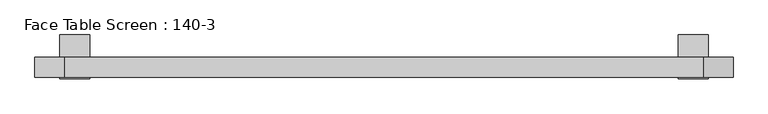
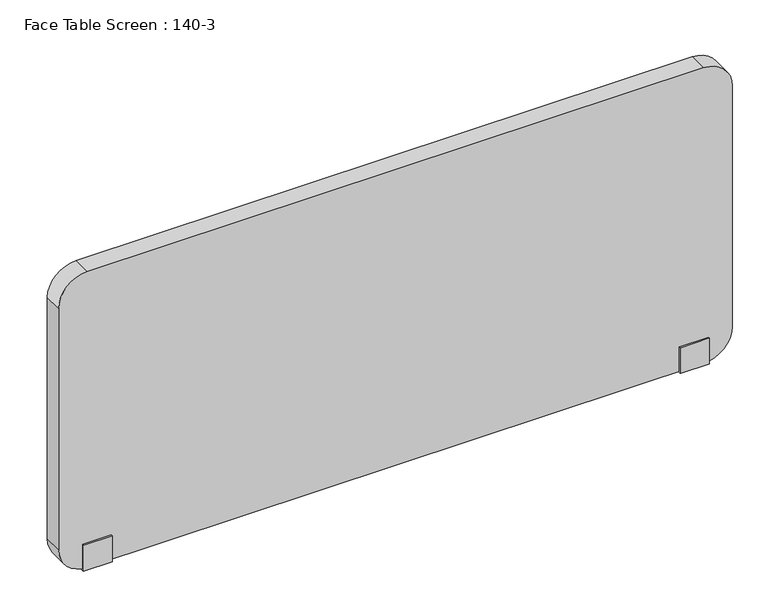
"""IFC4 building model written with IfcOpenShell, lengths in millimetres: furniture geometry, Face Table Screen : 140-3."""

import ifcopenshell
import ifcopenshell.guid

model = None  # the IFC model being written
_history = None  # IfcOwnerHistory: only IFC2X3 demands one
_inside = {}  # id of a spatial element -> (the spatial element, [elements in it])
_under = {}  # id of a project, library or spatial element -> (it, [spatial elements below it])
_declared = {}  # id of a project -> (the project, [libraries it declares])
_typed = {}  # id of a type object -> (the type object, [elements of that type])
_made_of = {}  # id of a material, layer set ... -> (it, [elements and type objects made of it])


def new_model(schema):
    """Start an empty IFC model of exactly this schema.

    Asked for "IFC4X3", IfcOpenShell would pick the latest addendum, in which some entities
    have other attributes; the version numbers below select the first issue.
    IFC2X3 requires an IfcOwnerHistory on every rooted entity: one is made here for all.
    """
    global model, _history
    if schema == "IFC4X3":
        model = ifcopenshell.file(schema_version=(4, 3, 0, 0))
    else:
        model = ifcopenshell.file(schema=schema)
    _inside.clear()
    _under.clear()
    _declared.clear()
    _typed.clear()
    _made_of.clear()
    _history = None
    if model.schema == "IFC2X3":
        org = make("IfcOrganization", Name="unknown")
        user = make(
            "IfcPersonAndOrganization",
            ThePerson=make("IfcPerson", FamilyName="unknown"),
            TheOrganization=org,
        )
        app = make(
            "IfcApplication",
            ApplicationDeveloper=org,
            Version="unknown",
            ApplicationFullName="unknown",
            ApplicationIdentifier="unknown",
        )
        _history = make(
            "IfcOwnerHistory",
            OwningUser=user,
            OwningApplication=app,
            ChangeAction="ADDED",
            CreationDate=0,
        )
    return model


def make(cls, **values):
    """One entity of the class cls with the attributes given. An attribute that is None is left unset."""
    return model.create_entity(
        cls, **{name: value for name, value in values.items() if value is not None}
    )


def rooted(cls, **values):
    """An entity with a GlobalId (a new one), such as an element, a storey or a relation."""
    return make(cls, GlobalId=ifcopenshell.guid.new(), OwnerHistory=_history, **values)


def si_unit(unit_type, name, prefix=None):
    """IfcSIUnit, for example si_unit("LENGTHUNIT", "METRE", prefix="MILLI")."""
    return make("IfcSIUnit", UnitType=unit_type, Prefix=prefix, Name=name)


def assignment(units):
    """IfcUnitAssignment: the units of a project."""
    return None if units is None else make("IfcUnitAssignment", Units=units)


def point(xyz):
    """IfcCartesianPoint."""
    return None if xyz is None else make("IfcCartesianPoint", Coordinates=xyz)


def direction(xyz):
    """IfcDirection."""
    return None if xyz is None else make("IfcDirection", DirectionRatios=xyz)


def frame(location, z_axis=None, x_axis=None):
    """IfcAxis2Placement3D, a coordinate frame: its origin and axes. An axis left out is left unset."""
    return make(
        "IfcAxis2Placement3D",
        Location=point(location),
        Axis=direction(z_axis),
        RefDirection=direction(x_axis),
    )


def frame_2d(location, x_axis=None):
    """IfcAxis2Placement2D, a coordinate frame in the plane: its origin and x axis."""
    return make(
        "IfcAxis2Placement2D", Location=point(location), RefDirection=direction(x_axis)
    )


def origin():
    """The frame at (0, 0, 0) with its axes left unset."""
    return frame((0.0, 0.0, 0.0))


def place(relative_to, where):
    """IfcLocalPlacement: puts the frame where relative to a parent placement (None: the world)."""
    return make(
        "IfcLocalPlacement", PlacementRelTo=relative_to, RelativePlacement=where
    )


def context(
    kind, dimensions, precision=None, world=None, true_north=None, identifier=None
):
    """IfcGeometricRepresentationContext, for example the 3D "Model" context."""
    return make(
        "IfcGeometricRepresentationContext",
        ContextIdentifier=identifier,
        ContextType=kind,
        CoordinateSpaceDimension=dimensions,
        Precision=precision,
        WorldCoordinateSystem=world,
        TrueNorth=true_north,
    )


def project(units=None, contexts=None):
    """IfcProject with its units and contexts."""
    return rooted(
        "IfcProject",
        Name="project",
        RepresentationContexts=contexts,
        UnitsInContext=assignment(units),
    )


def spatial(cls, under=None, at=None, **own):
    """A site, building, storey or space (cls), placed at a placement, below another one or the project."""
    s = rooted(cls, ObjectPlacement=at, **own)
    if under is not None:
        _under.setdefault(under.id(), (under, []))[1].append(s)
    return s


def polyline(points):
    """IfcPolyline through the points."""
    return make("IfcPolyline", Points=[point(p) for p in points])


def circle_curve(where, radius):
    """IfcCircle in the frame where."""
    return make("IfcCircle", Position=where, Radius=radius)


def trimmed(basis, trim1, trim2, sense, master):
    """IfcTrimmedCurve: the piece of a basis curve between two trims."""
    return make(
        "IfcTrimmedCurve",
        BasisCurve=basis,
        Trim1=trim1,
        Trim2=trim2,
        SenseAgreement=sense,
        MasterRepresentation=master,
    )


def segment(curve, same_sense, transition):
    """IfcCompositeCurveSegment."""
    return make(
        "IfcCompositeCurveSegment",
        Transition=transition,
        SameSense=same_sense,
        ParentCurve=curve,
    )


def composite_curve(segments, self_intersect=None):
    """IfcCompositeCurve: segments joined end to end."""
    return make("IfcCompositeCurve", Segments=segments, SelfIntersect=self_intersect)


def outline(outer, holes=None, kind="AREA"):
    """IfcArbitraryClosedProfileDef: a profile drawn as a closed curve; with holes, ...WithVoids."""
    if holes is None:
        return make("IfcArbitraryClosedProfileDef", ProfileType=kind, OuterCurve=outer)
    return make(
        "IfcArbitraryProfileDefWithVoids",
        ProfileType=kind,
        OuterCurve=outer,
        InnerCurves=holes,
    )


def extrude(swept, where, along, depth):
    """IfcExtrudedAreaSolid: the profile swept, set in the frame where, extruded along a direction by depth."""
    return make(
        "IfcExtrudedAreaSolid",
        SweptArea=swept,
        Position=where,
        ExtrudedDirection=direction(along),
        Depth=depth,
    )


def shape(context_of_items, identifier, shape_type, items):
    """IfcShapeRepresentation: the items that make up one representation, for example the "Body"."""
    return make(
        "IfcShapeRepresentation",
        ContextOfItems=context_of_items,
        RepresentationIdentifier=identifier,
        RepresentationType=shape_type,
        Items=items,
    )


def source(mapping_origin, context_of_items, identifier, shape_type, items):
    """IfcRepresentationMap: a shape defined once, which mapped items show again and again."""
    return make(
        "IfcRepresentationMap",
        MappingOrigin=mapping_origin,
        MappedRepresentation=shape(context_of_items, identifier, shape_type, items),
    )


def transform(
    local_origin,
    x_axis=None,
    y_axis=None,
    z_axis=None,
    scale=None,
    scale2=None,
    scale3=None,
    uniform=True,
):
    """IfcCartesianTransformationOperator3D, or its non-uniform kind. x_axis, y_axis, z_axis: its Axis1, 2, 3."""
    if uniform:
        return make(
            "IfcCartesianTransformationOperator3D",
            Axis1=direction(x_axis),
            Axis2=direction(y_axis),
            LocalOrigin=point(local_origin),
            Scale=scale,
            Axis3=direction(z_axis),
        )
    return make(
        "IfcCartesianTransformationOperator3DnonUniform",
        Axis1=direction(x_axis),
        Axis2=direction(y_axis),
        LocalOrigin=point(local_origin),
        Scale=scale,
        Axis3=direction(z_axis),
        Scale2=scale2,
        Scale3=scale3,
    )


def mapped(mapping_source, mapping_target):
    """IfcMappedItem: shows the shape of a source again, moved by a transform."""
    return make(
        "IfcMappedItem", MappingSource=mapping_source, MappingTarget=mapping_target
    )


def made_of(thing, what):
    """Note that an element or type object is made of a material, layer set ...; save() writes the relation."""
    if what is not None:
        _made_of.setdefault(what.id(), (what, []))[1].append(thing)
    return thing


def element(
    cls,
    number,
    at=None,
    inside=None,
    cuts=None,
    type_object=None,
    material=None,
    context=None,
    identifier="Body",
    shape_type=None,
    held_by="IfcProductDefinitionShape",
    body=None,
    shapes=None,
    **own,
):
    """One element of the class cls, such as IfcWall. Its Tag is "e" and its number.

    at: its placement. inside: the storey or other place that contains it. cuts: it is an
    opening in that element (IfcRelVoidsElement). A single representation is given by context,
    identifier, shape_type and body (its items); several are given by shapes. held_by: the class
    of the entity that holds the representations. save() writes the other relations.
    """
    e = rooted(cls, Tag="e%d" % number, ObjectPlacement=at, **own)
    if body is not None:
        shapes = [shape(context, identifier, shape_type, body)]
    if shapes is not None:
        e.Representation = make(held_by, Representations=shapes)
    if inside is not None:
        _inside.setdefault(inside.id(), (inside, []))[1].append(e)
    if cuts is not None:
        rooted(
            "IfcRelVoidsElement", RelatingBuildingElement=cuts, RelatedOpeningElement=e
        )
    if type_object is not None:
        _typed.setdefault(type_object.id(), (type_object, []))[1].append(e)
    return made_of(e, material)


def aggregate(whole, parts):
    """IfcRelAggregates: a whole, such as a stair, and the parts it consists of."""
    return rooted("IfcRelAggregates", RelatingObject=whole, RelatedObjects=parts)


def save(model, path):
    """Write the relations noted so far, then the file.

    IfcRelAggregates (storeys below a building ...), IfcRelContainedInSpatialStructure (elements
    in a storey), IfcRelDefinesByType, IfcRelAssociatesMaterial and IfcRelDeclares: one each for
    every whole, place, type object, material and project.
    """
    for whole, parts in _under.values():
        aggregate(whole, parts)
    for where, things in _inside.values():
        rooted(
            "IfcRelContainedInSpatialStructure",
            RelatedElements=things,
            RelatingStructure=where,
        )
    for kind, things in _typed.values():
        rooted("IfcRelDefinesByType", RelatedObjects=things, RelatingType=kind)
    for what, things in _made_of.values():
        rooted("IfcRelAssociatesMaterial", RelatedObjects=things, RelatingMaterial=what)
    for by, libraries in _declared.values():
        rooted("IfcRelDeclares", RelatingContext=by, RelatedDefinitions=libraries)
    model.write(path)


def face_table_screen_140_3_88fc4263(model_context):
    return source(origin(), model_context, "Body", "SweptSolid", [
        extrude(outline(polyline([(-22.9999947, -156.0), (-22.9999997, -99.0433898), (-20.0, -99.0433898), (-20.0, -153.0), (20.0, -153.0), (20.0, -22.0), (65.0, -22.0), (65.0, -25.0433898), (23.0000062, -25.0433898), (22.9999947, -156.0), (-22.9999947, -156.0)])), frame((590.0, 0.0, 0.0), z_axis=(1.0, 0.0, 0.0), x_axis=(0.0, 1.0, 0.0)), (0.0, 0.0, 1.0), 60.0),
        extrude(outline(polyline([(-22.9999947, -156.0), (-22.9999997, -99.0433898), (-20.0, -99.0433898), (-20.0, -153.0), (20.0, -153.0), (20.0, -22.0), (65.0, -22.0), (65.0, -25.0433898), (23.0000062, -25.0433898), (22.9999947, -156.0), (-22.9999947, -156.0)])), frame((-650.0, 0.0, 0.0), z_axis=(1.0, 0.0, 0.0), x_axis=(0.0, 1.0, 0.0)), (0.0, 0.0, 1.0), 60.0),
        extrude(outline(composite_curve([segment(polyline([(497.0, 640.0), (497.0, -640.0)]), True, "CONTINUOUS"), segment(trimmed(circle_curve(frame_2d((437.0, -640.0)), 60.0), [point((497.0, -640.0))], [point((437.0, -700.0))], False, "CARTESIAN"), True, "CONTINUOUS"), segment(polyline([(437.0, -700.0), (-93.0, -700.0)]), True, "CONTINUOUS"), segment(trimmed(circle_curve(frame_2d((-93.0, -640.0)), 60.0), [point((-93.0, -700.0))], [point((-153.0, -640.0))], False, "CARTESIAN"), True, "CONTINUOUS"), segment(polyline([(-153.0, -640.0), (-153.0, 640.0)]), True, "CONTINUOUS"), segment(trimmed(circle_curve(frame_2d((-93.0, 640.0)), 60.0), [point((-153.0, 640.0))], [point((-93.0, 700.0))], False, "CARTESIAN"), True, "CONTINUOUS"), segment(polyline([(-93.0, 700.0), (437.0, 700.0)]), True, "CONTINUOUS"), segment(trimmed(circle_curve(frame_2d((437.0, 640.0)), 60.0), [point((437.0, 700.0))], [point((497.0, 640.0))], False, "CARTESIAN"), True, "CONTINUOUS")], self_intersect=False)), frame((0.0, -20.0, 0.0), z_axis=(0.0, 1.0, 0.0), x_axis=(0.0, 0.0, 1.0)), (0.0, 0.0, 1.0), 40.0),
    ])


if __name__ == "__main__":
    model = new_model("IFC4")
    model_context = context("Model", 3, world=origin())
    ifc_project = project(units=[si_unit("LENGTHUNIT", "METRE", prefix="MILLI")], contexts=[model_context])
    site = spatial("IfcSite", under=ifc_project)
    building = spatial("IfcBuilding", under=site)
    placement = place(None, origin())
    face_table_screen_140_3_shape = face_table_screen_140_3_88fc4263(model_context)
    element("IfcFurniture", 1, ObjectType="Face Table Screen : 140-3", at=placement, inside=building, context=model_context, shape_type="MappedRepresentation", body=[
        mapped(face_table_screen_140_3_shape, transform((0.0, 0.0, 0.0), x_axis=(1.0, 0.0, 0.0), y_axis=(0.0, 1.0, 0.0), z_axis=(0.0, 0.0, 1.0))),
    ])
    save(model, "model.ifc")
